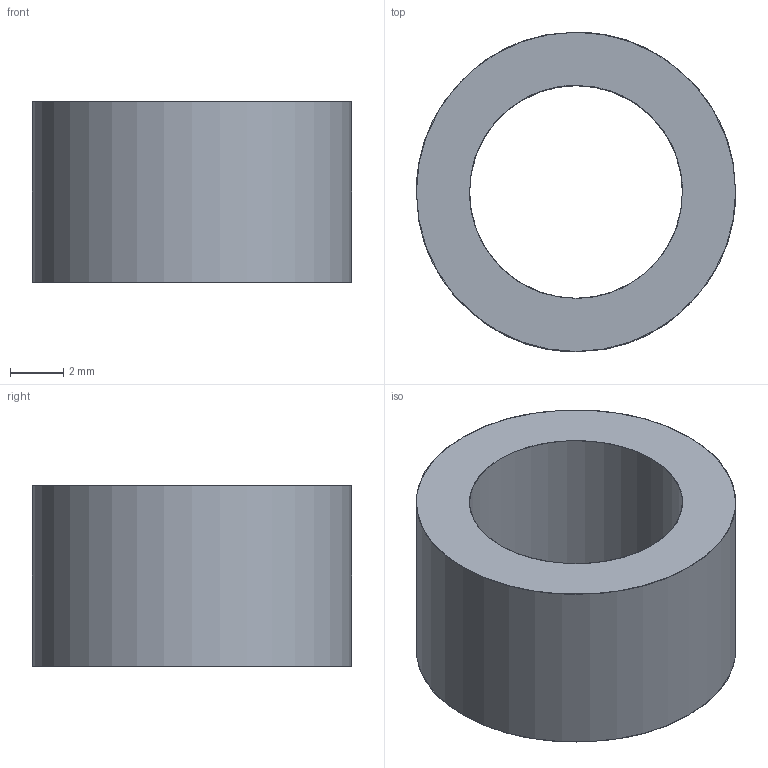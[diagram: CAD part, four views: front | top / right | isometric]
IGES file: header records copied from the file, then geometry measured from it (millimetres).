
Global section: file name: C:\Users\gehrichcr\Documents\1 Drive Backup\Practice\Inspire\V1.5\IGES\Frame Joint Bushing V1.5.igs; native system: NX V8.5; preprocessor: SIEMENS PLM Software NX 8.5; date: 20150608.095317; units: millimetre
Bounding box: 12 x 12 x 6.8 mm (x, y, z)
Surface area: 553.8 mm2 (no closed solid volume)
Topology: 0 solids, 0 shells, 4 faces, 44 edges, 44 vertices
Faces by surface type: bspline 4
